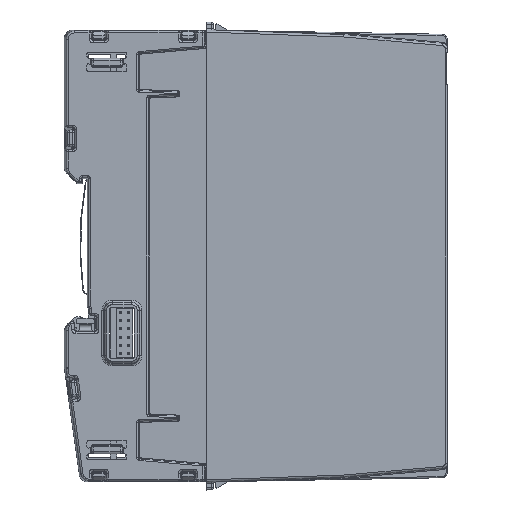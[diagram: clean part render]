
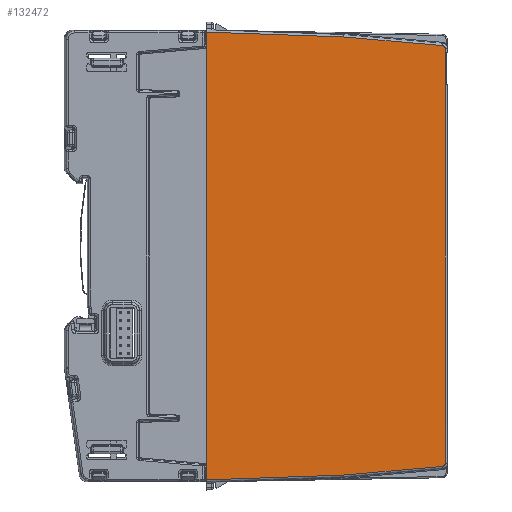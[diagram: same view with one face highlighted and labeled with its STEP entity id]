
A CAD part, left-side view. The second image highlights one B-rep face of the part: STEP entity #132472.
In plain terms, the highlighted planar face has unit normal (-1, -0.018, 0).
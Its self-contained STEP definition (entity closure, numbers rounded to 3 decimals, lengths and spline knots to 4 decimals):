
#1488=ELLIPSE('',#141622,0.0315,0.0315);
#1489=ELLIPSE('',#141623,0.0315,0.0315);
#6336=PLANE('',#141621);
#12427=FACE_OUTER_BOUND('',#19670,.T.);
#19670=EDGE_LOOP('',(#106719,#106720,#106721,#106722,#106723,#106724,#106725,
#106726,#106727,#106728));
#31380=LINE('',#223146,#44909);
#31381=LINE('',#223148,#44910);
#31382=LINE('',#223152,#44911);
#31383=LINE('',#223156,#44912);
#31384=LINE('',#223158,#44913);
#31385=LINE('',#223160,#44914);
#31386=LINE('',#223162,#44915);
#31387=LINE('',#223163,#44916);
#44909=VECTOR('',#167916,39.3701);
#44910=VECTOR('',#167917,39.3701);
#44911=VECTOR('',#167920,39.3701);
#44912=VECTOR('',#167923,39.3701);
#44913=VECTOR('',#167924,39.3701);
#44914=VECTOR('',#167925,39.3701);
#44915=VECTOR('',#167926,39.3701);
#44916=VECTOR('',#167927,39.3701);
#60090=VERTEX_POINT('',#223144);
#60091=VERTEX_POINT('',#223145);
#60092=VERTEX_POINT('',#223147);
#60093=VERTEX_POINT('',#223149);
#60094=VERTEX_POINT('',#223151);
#60095=VERTEX_POINT('',#223153);
#60096=VERTEX_POINT('',#223155);
#60097=VERTEX_POINT('',#223157);
#60098=VERTEX_POINT('',#223159);
#60099=VERTEX_POINT('',#223161);
#76247=EDGE_CURVE('',#60090,#60091,#31380,.T.);
#76248=EDGE_CURVE('',#60091,#60092,#31381,.T.);
#76249=EDGE_CURVE('',#60092,#60093,#1488,.T.);
#76250=EDGE_CURVE('',#60093,#60094,#31382,.T.);
#76251=EDGE_CURVE('',#60094,#60095,#1489,.T.);
#76252=EDGE_CURVE('',#60095,#60096,#31383,.T.);
#76253=EDGE_CURVE('',#60096,#60097,#31384,.T.);
#76254=EDGE_CURVE('',#60097,#60098,#31385,.T.);
#76255=EDGE_CURVE('',#60099,#60098,#31386,.T.);
#76256=EDGE_CURVE('',#60099,#60090,#31387,.T.);
#106719=ORIENTED_EDGE('',*,*,#76247,.T.);
#106720=ORIENTED_EDGE('',*,*,#76248,.T.);
#106721=ORIENTED_EDGE('',*,*,#76249,.T.);
#106722=ORIENTED_EDGE('',*,*,#76250,.T.);
#106723=ORIENTED_EDGE('',*,*,#76251,.T.);
#106724=ORIENTED_EDGE('',*,*,#76252,.T.);
#106725=ORIENTED_EDGE('',*,*,#76253,.T.);
#106726=ORIENTED_EDGE('',*,*,#76254,.T.);
#106727=ORIENTED_EDGE('',*,*,#76255,.F.);
#106728=ORIENTED_EDGE('',*,*,#76256,.T.);
#132472=ADVANCED_FACE('',(#12427),#6336,.T.);
#141621=AXIS2_PLACEMENT_3D('',#223143,#167914,#167915);
#141622=AXIS2_PLACEMENT_3D('',#223150,#167918,#167919);
#141623=AXIS2_PLACEMENT_3D('',#223154,#167921,#167922);
#167914=DIRECTION('center_axis',(-1.,-0.017,
0.));
#167915=DIRECTION('ref_axis',(-0.017,1.,0.));
#167916=DIRECTION('',(0.017,-0.999,0.035));
#167917=DIRECTION('',(0.017,-0.996,0.087));
#167918=DIRECTION('center_axis',(-1.,-0.017,
0.));
#167919=DIRECTION('ref_axis',(0.017,-1.,0.));
#167920=DIRECTION('',(0.,0.,1.));
#167921=DIRECTION('center_axis',(-1.,-0.017,
0.));
#167922=DIRECTION('ref_axis',(0.017,-1.,0.));
#167923=DIRECTION('',(-0.017,0.996,0.087));
#167924=DIRECTION('',(-0.017,0.999,0.035));
#167925=DIRECTION('',(0.,0.,-1.));
#167926=DIRECTION('',(0.,0.,1.));
#167927=DIRECTION('',(0.,0.,-1.));
#223143=CARTESIAN_POINT('Origin',(-0.0295,-0.4749,
-2.0669));
#223144=CARTESIAN_POINT('',(-0.0227,-0.8686,-4.2421));
#223145=CARTESIAN_POINT('',(0.0007,-2.2063,-4.1954));
#223146=CARTESIAN_POINT('',(-0.0282,-0.5512,-4.2532));
#223147=CARTESIAN_POINT('',(0.0174,-3.163,-4.1117));
#223148=CARTESIAN_POINT('',(-0.0261,-0.6728,-4.3296));
#223149=CARTESIAN_POINT('',(0.0179,-3.1918,-4.0803));
#223150=CARTESIAN_POINT('Origin',(0.0173,-3.1603,-4.0803));
#223151=CARTESIAN_POINT('',(0.0179,-3.1918,-0.0535));
#223152=CARTESIAN_POINT('',(0.0179,-3.1918,-0.0535));
#223153=CARTESIAN_POINT('',(0.0174,-3.163,-0.0221));
#223154=CARTESIAN_POINT('Origin',(0.0173,-3.1603,
-0.0535));
#223155=CARTESIAN_POINT('',(0.0007,-2.2063,0.0616));
#223156=CARTESIAN_POINT('',(-0.0261,-0.6728,0.1957));
#223157=CARTESIAN_POINT('',(-0.0227,-0.8686,0.1083));
#223158=CARTESIAN_POINT('',(-0.0282,-0.5512,0.1194));
#223159=CARTESIAN_POINT('',(-0.0227,-0.8686,-0.0312));
#223160=CARTESIAN_POINT('',(-0.0227,-0.8686,0.128));
#223161=CARTESIAN_POINT('',(-0.0227,-0.8686,-4.1027));
#223162=CARTESIAN_POINT('',(-0.0227,-0.8686,-7.5932));
#223163=CARTESIAN_POINT('',(-0.0227,-0.8686,0.128));
